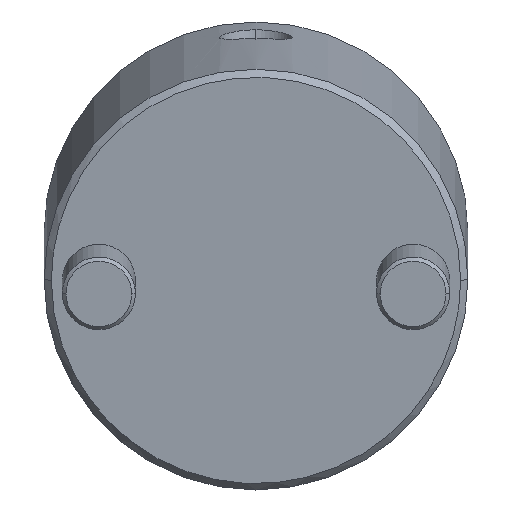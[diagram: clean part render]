
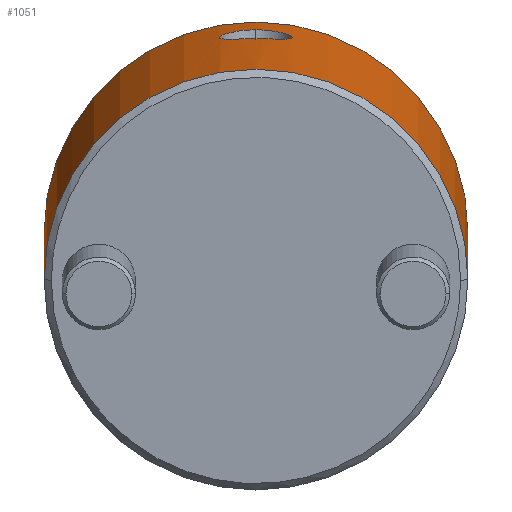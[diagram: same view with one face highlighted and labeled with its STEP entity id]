
A CAD part, front view. The second image highlights one B-rep face of the part: STEP entity #1051.
In plain terms, the highlighted cylindrical face has radius 29 mm (diameter 58 mm), a partial arc.
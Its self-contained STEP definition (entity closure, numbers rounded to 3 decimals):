
#781=CARTESIAN_POINT('Vertex',(0.,29.,1.)) ;
#784=CARTESIAN_POINT('Axis2P3D Location',(0.,0.,1.)) ;
#788=CARTESIAN_POINT('Vertex',(0.,-29.,1.)) ;
#940=CARTESIAN_POINT('Axis2P3D Location',(0.,0.,-2.75)) ;
#945=CARTESIAN_POINT('Line Origine',(0.,29.,-2.75)) ;
#949=CARTESIAN_POINT('Vertex',(0.,29.,54.)) ;
#952=CARTESIAN_POINT('Axis2P3D Location',(0.,0.,54.)) ;
#956=CARTESIAN_POINT('Vertex',(0.,-29.,54.)) ;
#959=CARTESIAN_POINT('Line Origine',(0.,-29.,-2.75)) ;
#971=CARTESIAN_POINT('Control Point',(29.,0.,45.192)) ;
#972=CARTESIAN_POINT('Control Point',(29.,0.432,45.192)) ;
#973=CARTESIAN_POINT('Control Point',(28.992,0.86,45.145)) ;
#974=CARTESIAN_POINT('Control Point',(28.976,1.284,45.049)) ;
#975=CARTESIAN_POINT('Control Point',(28.942,1.899,44.838)) ;
#976=CARTESIAN_POINT('Control Point',(28.895,2.472,44.529)) ;
#977=CARTESIAN_POINT('Control Point',(28.879,2.66,44.414)) ;
#978=CARTESIAN_POINT('Control Point',(28.844,3.021,44.165)) ;
#979=CARTESIAN_POINT('Control Point',(28.806,3.354,43.877)) ;
#980=CARTESIAN_POINT('Control Point',(28.787,3.513,43.724)) ;
#981=CARTESIAN_POINT('Control Point',(28.739,3.89,43.318)) ;
#982=CARTESIAN_POINT('Control Point',(28.694,4.211,42.864)) ;
#983=CARTESIAN_POINT('Control Point',(28.668,4.38,42.576)) ;
#984=CARTESIAN_POINT('Control Point',(28.614,4.721,41.876)) ;
#985=CARTESIAN_POINT('Control Point',(28.579,4.924,41.129)) ;
#986=CARTESIAN_POINT('Control Point',(28.567,4.994,40.69)) ;
#987=CARTESIAN_POINT('Control Point',(28.561,5.028,40.032)) ;
#988=CARTESIAN_POINT('Control Point',(28.574,4.955,39.378)) ;
#989=CARTESIAN_POINT('Control Point',(28.58,4.919,39.162)) ;
#990=CARTESIAN_POINT('Control Point',(28.596,4.824,38.737)) ;
#991=CARTESIAN_POINT('Control Point',(28.619,4.684,38.325)) ;
#992=CARTESIAN_POINT('Control Point',(28.633,4.603,38.124)) ;
#993=CARTESIAN_POINT('Control Point',(28.662,4.418,37.729)) ;
#994=CARTESIAN_POINT('Control Point',(28.696,4.192,37.358)) ;
#995=CARTESIAN_POINT('Control Point',(28.714,4.068,37.179)) ;
#996=CARTESIAN_POINT('Control Point',(28.751,3.802,36.834)) ;
#997=CARTESIAN_POINT('Control Point',(28.789,3.499,36.521)) ;
#998=CARTESIAN_POINT('Control Point',(28.808,3.34,36.373)) ;
#999=CARTESIAN_POINT('Control Point',(28.845,3.005,36.094)) ;
#1000=CARTESIAN_POINT('Control Point',(28.88,2.64,35.854)) ;
#1001=CARTESIAN_POINT('Control Point',(28.897,2.45,35.743)) ;
#1002=CARTESIAN_POINT('Control Point',(28.943,1.879,35.45)) ;
#1003=CARTESIAN_POINT('Control Point',(28.977,1.266,35.25)) ;
#1004=CARTESIAN_POINT('Control Point',(28.992,0.846,35.161)) ;
#1005=CARTESIAN_POINT('Control Point',(29.,0.425,35.117)) ;
#1006=CARTESIAN_POINT('Control Point',(29.,0.,35.117)) ;
#1007=CARTESIAN_POINT('Vertex',(29.,0.,45.192)) ;
#1009=CARTESIAN_POINT('Vertex',(29.,0.,35.117)) ;
#1013=CARTESIAN_POINT('Control Point',(29.,0.,35.117)) ;
#1014=CARTESIAN_POINT('Control Point',(29.,-0.219,35.117)) ;
#1015=CARTESIAN_POINT('Control Point',(28.998,-0.438,35.129)) ;
#1016=CARTESIAN_POINT('Control Point',(28.994,-0.654,35.152)) ;
#1017=CARTESIAN_POINT('Control Point',(28.982,-1.087,35.223)) ;
#1018=CARTESIAN_POINT('Control Point',(28.962,-1.509,35.34)) ;
#1019=CARTESIAN_POINT('Control Point',(28.95,-1.716,35.409)) ;
#1020=CARTESIAN_POINT('Control Point',(28.924,-2.122,35.571)) ;
#1021=CARTESIAN_POINT('Control Point',(28.892,-2.509,35.776)) ;
#1022=CARTESIAN_POINT('Control Point',(28.875,-2.697,35.889)) ;
#1023=CARTESIAN_POINT('Control Point',(28.822,-3.238,36.256)) ;
#1024=CARTESIAN_POINT('Control Point',(28.764,-3.712,36.708)) ;
#1025=CARTESIAN_POINT('Control Point',(28.725,-3.995,37.044)) ;
#1026=CARTESIAN_POINT('Control Point',(28.672,-4.359,37.589)) ;
#1027=CARTESIAN_POINT('Control Point',(28.628,-4.629,38.185)) ;
#1028=CARTESIAN_POINT('Control Point',(28.616,-4.707,38.388)) ;
#1029=CARTESIAN_POINT('Control Point',(28.593,-4.842,38.801)) ;
#1030=CARTESIAN_POINT('Control Point',(28.578,-4.931,39.227)) ;
#1031=CARTESIAN_POINT('Control Point',(28.572,-4.964,39.445)) ;
#1032=CARTESIAN_POINT('Control Point',(28.561,-5.029,40.099)) ;
#1033=CARTESIAN_POINT('Control Point',(28.568,-4.986,40.757)) ;
#1034=CARTESIAN_POINT('Control Point',(28.581,-4.911,41.195)) ;
#1035=CARTESIAN_POINT('Control Point',(28.623,-4.666,42.047)) ;
#1036=CARTESIAN_POINT('Control Point',(28.689,-4.244,42.835)) ;
#1037=CARTESIAN_POINT('Control Point',(28.726,-3.992,43.203)) ;
#1038=CARTESIAN_POINT('Control Point',(28.803,-3.411,43.879)) ;
#1039=CARTESIAN_POINT('Control Point',(28.877,-2.708,44.408)) ;
#1040=CARTESIAN_POINT('Control Point',(28.91,-2.329,44.633)) ;
#1041=CARTESIAN_POINT('Control Point',(28.959,-1.65,44.942)) ;
#1042=CARTESIAN_POINT('Control Point',(28.988,-0.925,45.118)) ;
#1043=CARTESIAN_POINT('Control Point',(28.996,-0.618,45.168)) ;
#1044=CARTESIAN_POINT('Control Point',(29.,-0.31,45.192)) ;
#1045=CARTESIAN_POINT('Control Point',(29.,0.,45.192)) ;
#785=DIRECTION('Axis2P3D Direction',(0.,0.,1.)) ;
#941=DIRECTION('Axis2P3D Direction',(0.,-0.,1.)) ;
#942=DIRECTION('Axis2P3D XDirection',(0.,-1.,0.)) ;
#946=DIRECTION('Vector Direction',(0.,0.,1.)) ;
#953=DIRECTION('Axis2P3D Direction',(0.,-0.,1.)) ;
#960=DIRECTION('Vector Direction',(0.,0.,1.)) ;
#786=AXIS2_PLACEMENT_3D('Circle Axis2P3D',#784,#785,$) ;
#943=AXIS2_PLACEMENT_3D('Cylinder Axis2P3D',#940,#941,#942) ;
#954=AXIS2_PLACEMENT_3D('Circle Axis2P3D',#952,#953,$) ;
#965=ORIENTED_EDGE('',*,*,#951,.F.) ;
#966=ORIENTED_EDGE('',*,*,#958,.T.) ;
#967=ORIENTED_EDGE('',*,*,#963,.T.) ;
#968=ORIENTED_EDGE('',*,*,#790,.F.) ;
#1048=ORIENTED_EDGE('',*,*,#1011,.T.) ;
#1049=ORIENTED_EDGE('',*,*,#1046,.T.) ;
#1050=FACE_BOUND('',#1047,.T.) ;
#947=VECTOR('Line Direction',#946,1.) ;
#961=VECTOR('Line Direction',#960,1.) ;
#1051=ADVANCED_FACE('MANIFOLD_SOLID_BREP #1148',(#969,#1050),#944,.T.) ;
#970=B_SPLINE_CURVE_WITH_KNOTS('',5,(#971,#972,#973,#974,#975,#976,#977,#978,#979,#980,#981,#982,#983,#984,#985,#986,#987,#988,#989,#990,#991,#992,#993,#994,#995,#996,#997,#998,#999,#1000,#1001,#1002,#1003,#1004,#1005,#1006),.UNSPECIFIED.,.F.,.U.,(6,3,3,3,3,3,3,3,3,3,3,6),(0.,3.075,4.626,6.186,8.52,11.622,13.164,14.707,16.25,17.799,19.348,22.349),.UNSPECIFIED.) ;
#1012=B_SPLINE_CURVE_WITH_KNOTS('',5,(#1013,#1014,#1015,#1016,#1017,#1018,#1019,#1020,#1021,#1022,#1023,#1024,#1025,#1026,#1027,#1028,#1029,#1030,#1031,#1032,#1033,#1034,#1035,#1036,#1037,#1038,#1039,#1040,#1041,#1042,#1043,#1044,#1045),.UNSPECIFIED.,.F.,.U.,(6,3,3,3,3,3,3,3,3,3,6),(0.,1.549,3.098,4.646,7.739,9.281,10.823,13.925,17.042,20.14,22.346),.UNSPECIFIED.) ;
#787=CIRCLE('generated circle',#786,29.) ;
#955=CIRCLE('generated circle',#954,29.) ;
#944=CYLINDRICAL_SURFACE('generated cylinder',#943,29.) ;
#790=EDGE_CURVE('',#782,#789,#787,.F.) ;
#951=EDGE_CURVE('',#950,#782,#948,.F.) ;
#958=EDGE_CURVE('',#950,#957,#955,.F.) ;
#963=EDGE_CURVE('',#957,#789,#962,.F.) ;
#1011=EDGE_CURVE('',#1008,#1010,#970,.T.) ;
#1046=EDGE_CURVE('',#1010,#1008,#1012,.T.) ;
#964=EDGE_LOOP('',(#965,#966,#967,#968)) ;
#1047=EDGE_LOOP('',(#1048,#1049)) ;
#969=FACE_OUTER_BOUND('',#964,.T.) ;
#948=LINE('Line',#945,#947) ;
#962=LINE('Line',#959,#961) ;
#782=VERTEX_POINT('',#781) ;
#789=VERTEX_POINT('',#788) ;
#950=VERTEX_POINT('',#949) ;
#957=VERTEX_POINT('',#956) ;
#1008=VERTEX_POINT('',#1007) ;
#1010=VERTEX_POINT('',#1009) ;
